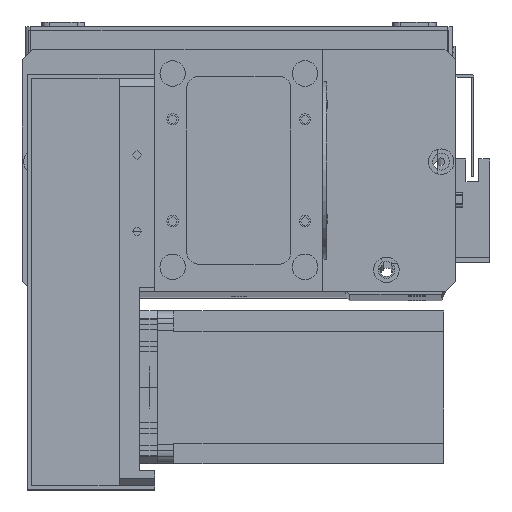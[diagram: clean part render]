
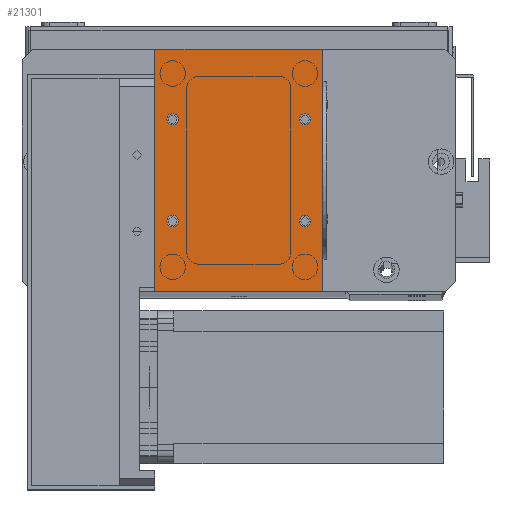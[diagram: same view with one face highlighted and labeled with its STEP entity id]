
A CAD part, top view. The second image highlights one B-rep face of the part: STEP entity #21301.
In plain terms, the highlighted planar face has unit normal (0, 0, 1).
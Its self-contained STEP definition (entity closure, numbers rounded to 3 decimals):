
#445 = FACE_BOUND ( 'NONE', #31830, .T. ) ;
#463 = EDGE_LOOP ( 'NONE', ( #9528, #16538 ) ) ;
#521 = EDGE_LOOP ( 'NONE', ( #3164, #20014 ) ) ;
#766 = DIRECTION ( 'NONE',  ( 0., 0., 1. ) ) ;
#847 = CARTESIAN_POINT ( 'NONE',  ( 7., 67.5, 2. ) ) ;
#930 = CARTESIAN_POINT ( 'NONE',  ( 0., 0., 2. ) ) ;
#943 = CARTESIAN_POINT ( 'NONE',  ( 61.25, 67.5, 2. ) ) ;
#1084 = CARTESIAN_POINT ( 'NONE',  ( 4.75, 27.5, 2. ) ) ;
#1223 = FACE_BOUND ( 'NONE', #521, .T. ) ;
#1484 = EDGE_CURVE ( 'NONE', #14575, #17078, #4705, .T. ) ;
#1586 = CARTESIAN_POINT ( 'NONE',  ( 0., 95., 2. ) ) ;
#1637 = EDGE_LOOP ( 'NONE', ( #7194, #26586 ) ) ;
#2076 = CIRCLE ( 'NONE', #24143, 2.25 ) ;
#2407 = CARTESIAN_POINT ( 'NONE',  ( 0., 95., 2. ) ) ;
#2491 = VECTOR ( 'NONE', #3830, 1000. ) ;
#2597 = CARTESIAN_POINT ( 'NONE',  ( 59., 27.5, 2. ) ) ;
#2670 = CARTESIAN_POINT ( 'NONE',  ( 7., 27.5, 2. ) ) ;
#2682 = EDGE_CURVE ( 'NONE', #18898, #10782, #11654, .T. ) ;
#2952 = VERTEX_POINT ( 'NONE', #943 ) ;
#3047 = AXIS2_PLACEMENT_3D ( 'NONE', #13488, #30970, #15940 ) ;
#3164 = ORIENTED_EDGE ( 'NONE', *, *, #32048, .F. ) ;
#3672 = EDGE_CURVE ( 'NONE', #22724, #2952, #21735, .T. ) ;
#3770 = ORIENTED_EDGE ( 'NONE', *, *, #8357, .T. ) ;
#3777 = AXIS2_PLACEMENT_3D ( 'NONE', #4065, #21524, #6564 ) ;
#3828 = CARTESIAN_POINT ( 'NONE',  ( 56.75, 67.5, 2. ) ) ;
#3830 = DIRECTION ( 'NONE',  ( 0., 1., 0. ) ) ;
#4065 = CARTESIAN_POINT ( 'NONE',  ( 59., 67.5, 2. ) ) ;
#4276 = EDGE_LOOP ( 'NONE', ( #32314, #14952, #15841, #3770 ) ) ;
#4705 = CIRCLE ( 'NONE', #18747, 2.25 ) ;
#4732 = ORIENTED_EDGE ( 'NONE', *, *, #9866, .F. ) ;
#4772 = DIRECTION ( 'NONE',  ( -1., 0., 0. ) ) ;
#5115 = DIRECTION ( 'NONE',  ( 1., 0., 0. ) ) ;
#5168 = DIRECTION ( 'NONE',  ( 1., 0., 0. ) ) ;
#6564 = DIRECTION ( 'NONE',  ( 1., 0., 0. ) ) ;
#7043 = DIRECTION ( 'NONE',  ( 1., 0., 0. ) ) ;
#7194 = ORIENTED_EDGE ( 'NONE', *, *, #22851, .F. ) ;
#8357 = EDGE_CURVE ( 'NONE', #13298, #10031, #19623, .T. ) ;
#9528 = ORIENTED_EDGE ( 'NONE', *, *, #2682, .F. ) ;
#9818 = VECTOR ( 'NONE', #7043, 1000. ) ;
#9866 = EDGE_CURVE ( 'NONE', #22733, #14422, #24614, .T. ) ;
#10031 = VERTEX_POINT ( 'NONE', #1586 ) ;
#10198 = CARTESIAN_POINT ( 'NONE',  ( 59., 27.5, 2. ) ) ;
#10202 = CARTESIAN_POINT ( 'NONE',  ( 56.75, 27.5, 2. ) ) ;
#10782 = VERTEX_POINT ( 'NONE', #10202 ) ;
#10918 = DIRECTION ( 'NONE',  ( 0., 0., 1. ) ) ;
#11017 = DIRECTION ( 'NONE',  ( 0., 0., 1. ) ) ;
#11119 = AXIS2_PLACEMENT_3D ( 'NONE', #27150, #19718, #4772 ) ;
#11471 = CARTESIAN_POINT ( 'NONE',  ( 9.25, 27.5, 2. ) ) ;
#11654 = CIRCLE ( 'NONE', #14571, 2.25 ) ;
#12389 = EDGE_CURVE ( 'NONE', #14422, #22733, #18513, .T. ) ;
#12447 = LINE ( 'NONE', #930, #17478 ) ;
#12710 = DIRECTION ( 'NONE',  ( 1., 0., 0. ) ) ;
#13244 = EDGE_CURVE ( 'NONE', #30733, #13298, #28263, .T. ) ;
#13298 = VERTEX_POINT ( 'NONE', #16730 ) ;
#13488 = CARTESIAN_POINT ( 'NONE',  ( 7., 27.5, 2. ) ) ;
#13534 = AXIS2_PLACEMENT_3D ( 'NONE', #2670, #20120, #5168 ) ;
#14422 = VERTEX_POINT ( 'NONE', #11471 ) ;
#14571 = AXIS2_PLACEMENT_3D ( 'NONE', #2597, #20063, #5115 ) ;
#14575 = VERTEX_POINT ( 'NONE', #15530 ) ;
#14952 = ORIENTED_EDGE ( 'NONE', *, *, #27112, .T. ) ;
#15530 = CARTESIAN_POINT ( 'NONE',  ( 4.75, 67.5, 2. ) ) ;
#15535 = DIRECTION ( 'NONE',  ( 1., 0., 0. ) ) ;
#15819 = CARTESIAN_POINT ( 'NONE',  ( 9.25, 67.5, 2. ) ) ;
#15841 = ORIENTED_EDGE ( 'NONE', *, *, #13244, .T. ) ;
#15940 = DIRECTION ( 'NONE',  ( 1., 0., 0. ) ) ;
#16538 = ORIENTED_EDGE ( 'NONE', *, *, #27265, .F. ) ;
#16730 = CARTESIAN_POINT ( 'NONE',  ( 66., 95., 2. ) ) ;
#16755 = ORIENTED_EDGE ( 'NONE', *, *, #12389, .F. ) ;
#17073 = EDGE_CURVE ( 'NONE', #10031, #28572, #12447, .T. ) ;
#17078 = VERTEX_POINT ( 'NONE', #15819 ) ;
#17302 = DIRECTION ( 'NONE',  ( -1., 0., 0. ) ) ;
#17478 = VECTOR ( 'NONE', #18348, 1000. ) ;
#18328 = CARTESIAN_POINT ( 'NONE',  ( 61.25, 27.5, 2. ) ) ;
#18348 = DIRECTION ( 'NONE',  ( 0., -1., 0. ) ) ;
#18513 = CIRCLE ( 'NONE', #13534, 2.25 ) ;
#18747 = AXIS2_PLACEMENT_3D ( 'NONE', #847, #766, #15535 ) ;
#18898 = VERTEX_POINT ( 'NONE', #18328 ) ;
#19064 = CARTESIAN_POINT ( 'NONE',  ( 66., 0., 2. ) ) ;
#19145 = CIRCLE ( 'NONE', #28647, 2.25 ) ;
#19623 = LINE ( 'NONE', #2407, #26262 ) ;
#19718 = DIRECTION ( 'NONE',  ( 0., 0., -1. ) ) ;
#20014 = ORIENTED_EDGE ( 'NONE', *, *, #3672, .F. ) ;
#20063 = DIRECTION ( 'NONE',  ( 0., 0., 1. ) ) ;
#20120 = DIRECTION ( 'NONE',  ( 0., 0., 1. ) ) ;
#21301 = ADVANCED_FACE ( 'NONE', ( #27007, #1223, #27797, #445, #26225 ), #32174, .F. ) ;
#21444 = CIRCLE ( 'NONE', #29776, 2.25 ) ;
#21524 = DIRECTION ( 'NONE',  ( 0., 0., 1. ) ) ;
#21735 = CIRCLE ( 'NONE', #3777, 2.25 ) ;
#22724 = VERTEX_POINT ( 'NONE', #3828 ) ;
#22733 = VERTEX_POINT ( 'NONE', #1084 ) ;
#22851 = EDGE_CURVE ( 'NONE', #17078, #14575, #21444, .T. ) ;
#22996 = CARTESIAN_POINT ( 'NONE',  ( 66., 0., 2. ) ) ;
#23864 = LINE ( 'NONE', #26907, #9818 ) ;
#24143 = AXIS2_PLACEMENT_3D ( 'NONE', #25863, #10918, #28391 ) ;
#24614 = CIRCLE ( 'NONE', #3047, 2.25 ) ;
#24722 = CARTESIAN_POINT ( 'NONE',  ( 0., 0., 2. ) ) ;
#25863 = CARTESIAN_POINT ( 'NONE',  ( 59., 67.5, 2. ) ) ;
#25973 = CARTESIAN_POINT ( 'NONE',  ( 7., 67.5, 2. ) ) ;
#26225 = FACE_OUTER_BOUND ( 'NONE', #4276, .T. ) ;
#26262 = VECTOR ( 'NONE', #17302, 1000. ) ;
#26586 = ORIENTED_EDGE ( 'NONE', *, *, #1484, .F. ) ;
#26907 = CARTESIAN_POINT ( 'NONE',  ( 0., 0., 2. ) ) ;
#27007 = FACE_BOUND ( 'NONE', #1637, .T. ) ;
#27112 = EDGE_CURVE ( 'NONE', #28572, #30733, #23864, .T. ) ;
#27150 = CARTESIAN_POINT ( 'NONE',  ( 0., 0., 2. ) ) ;
#27265 = EDGE_CURVE ( 'NONE', #10782, #18898, #19145, .T. ) ;
#27672 = DIRECTION ( 'NONE',  ( 0., 0., 1. ) ) ;
#27797 = FACE_BOUND ( 'NONE', #463, .T. ) ;
#28263 = LINE ( 'NONE', #19064, #2491 ) ;
#28391 = DIRECTION ( 'NONE',  ( 1., 0., 0. ) ) ;
#28493 = DIRECTION ( 'NONE',  ( 1., 0., 0. ) ) ;
#28572 = VERTEX_POINT ( 'NONE', #24722 ) ;
#28647 = AXIS2_PLACEMENT_3D ( 'NONE', #10198, #27672, #12710 ) ;
#29776 = AXIS2_PLACEMENT_3D ( 'NONE', #25973, #11017, #28493 ) ;
#30733 = VERTEX_POINT ( 'NONE', #22996 ) ;
#30970 = DIRECTION ( 'NONE',  ( 0., 0., 1. ) ) ;
#31830 = EDGE_LOOP ( 'NONE', ( #16755, #4732 ) ) ;
#32048 = EDGE_CURVE ( 'NONE', #2952, #22724, #2076, .T. ) ;
#32174 = PLANE ( 'NONE',  #11119 ) ;
#32314 = ORIENTED_EDGE ( 'NONE', *, *, #17073, .T. ) ;
